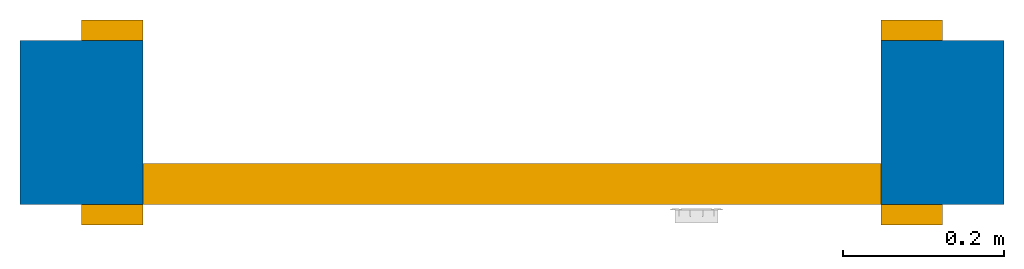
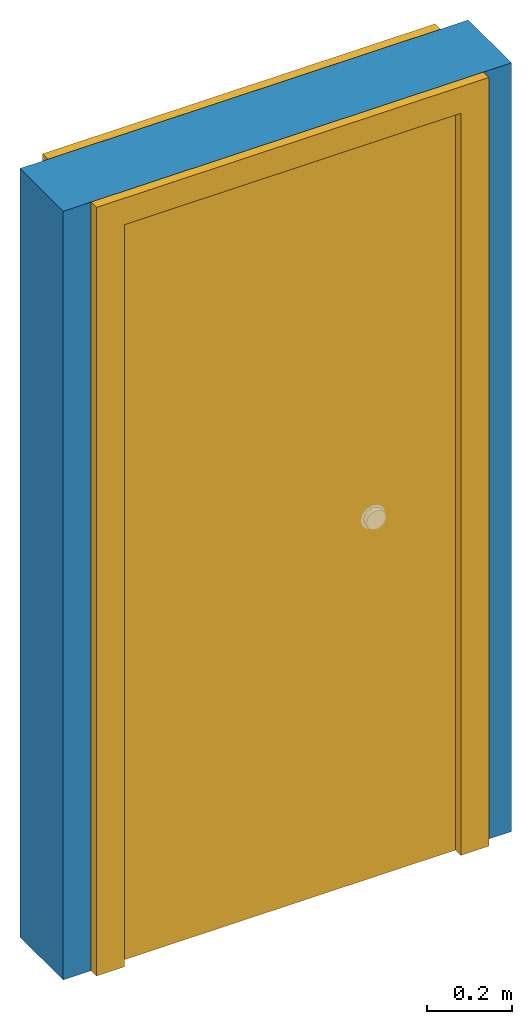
# One storey, part 1 of 2: 1 door, 1 wall, 1 opening.
"""IFC2X3 building model written with IfcOpenShell, lengths in feet."""

import ifcopenshell
import ifcopenshell.guid

model = None  # the IFC model being written
_history = None  # IfcOwnerHistory: only IFC2X3 demands one
_inside = {}  # id of a spatial element -> (the spatial element, [elements in it])
_under = {}  # id of a project, library or spatial element -> (it, [spatial elements below it])
_declared = {}  # id of a project -> (the project, [libraries it declares])
_typed = {}  # id of a type object -> (the type object, [elements of that type])
_made_of = {}  # id of a material, layer set ... -> (it, [elements and type objects made of it])


def new_model(schema):
    """Start an empty IFC model of exactly this schema.

    Asked for "IFC4X3", IfcOpenShell would pick the latest addendum, in which some entities
    have other attributes; the version numbers below select the first issue.
    IFC2X3 requires an IfcOwnerHistory on every rooted entity: one is made here for all.
    """
    global model, _history
    if schema == "IFC4X3":
        model = ifcopenshell.file(schema_version=(4, 3, 0, 0))
    else:
        model = ifcopenshell.file(schema=schema)
    _inside.clear()
    _under.clear()
    _declared.clear()
    _typed.clear()
    _made_of.clear()
    _history = None
    if model.schema == "IFC2X3":
        org = make("IfcOrganization", Name="unknown")
        user = make(
            "IfcPersonAndOrganization",
            ThePerson=make("IfcPerson", FamilyName="unknown"),
            TheOrganization=org,
        )
        app = make(
            "IfcApplication",
            ApplicationDeveloper=org,
            Version="unknown",
            ApplicationFullName="unknown",
            ApplicationIdentifier="unknown",
        )
        _history = make(
            "IfcOwnerHistory",
            OwningUser=user,
            OwningApplication=app,
            ChangeAction="ADDED",
            CreationDate=0,
        )
    return model


def make(cls, **values):
    """One entity of the class cls with the attributes given. An attribute that is None is left unset."""
    return model.create_entity(
        cls, **{name: value for name, value in values.items() if value is not None}
    )


def entity(cls, *values):
    """Any entity or typed value of the class cls, its attributes in the order of the schema. None: left unset."""
    e = model.create_entity(cls)
    for i, value in enumerate(values):
        if value is not None:
            e[i] = value
    return e


def rooted(cls, **values):
    """An entity with a GlobalId (a new one), such as an element, a storey or a relation."""
    return make(cls, GlobalId=ifcopenshell.guid.new(), OwnerHistory=_history, **values)


def si_unit(unit_type, name, prefix=None):
    """IfcSIUnit, for example si_unit("LENGTHUNIT", "METRE", prefix="MILLI")."""
    return make("IfcSIUnit", UnitType=unit_type, Prefix=prefix, Name=name)


def converted_unit(unit_type, name, factor, base, dimensions=None, offset=None):
    """IfcConversionBasedUnit, such as the inch: factor (a typed value) times the base unit."""
    return make(
        "IfcConversionBasedUnit"
        if offset is None
        else "IfcConversionBasedUnitWithOffset",
        ConversionOffset=offset,
        Dimensions=None
        if dimensions is None
        else entity("IfcDimensionalExponents", *dimensions),
        UnitType=unit_type,
        Name=name,
        ConversionFactor=make(
            "IfcMeasureWithUnit", ValueComponent=factor, UnitComponent=base
        ),
    )


def derived_unit(unit_type, elements):
    """IfcDerivedUnit: a product of units, each with its exponent."""
    return make(
        "IfcDerivedUnit",
        Elements=[
            make("IfcDerivedUnitElement", Unit=unit, Exponent=power)
            for unit, power in elements
        ],
        UnitType=unit_type,
    )


def assignment(units):
    """IfcUnitAssignment: the units of a project."""
    return None if units is None else make("IfcUnitAssignment", Units=units)


def point(xyz):
    """IfcCartesianPoint."""
    return None if xyz is None else make("IfcCartesianPoint", Coordinates=xyz)


def direction(xyz):
    """IfcDirection."""
    return None if xyz is None else make("IfcDirection", DirectionRatios=xyz)


def frame(location, z_axis=None, x_axis=None):
    """IfcAxis2Placement3D, a coordinate frame: its origin and axes. An axis left out is left unset."""
    return make(
        "IfcAxis2Placement3D",
        Location=point(location),
        Axis=direction(z_axis),
        RefDirection=direction(x_axis),
    )


def frame_2d(location, x_axis=None):
    """IfcAxis2Placement2D, a coordinate frame in the plane: its origin and x axis."""
    return make(
        "IfcAxis2Placement2D", Location=point(location), RefDirection=direction(x_axis)
    )


def origin():
    """The frame at (0, 0, 0) with its axes left unset."""
    return frame((0.0, 0.0, 0.0))


def place(relative_to, where):
    """IfcLocalPlacement: puts the frame where relative to a parent placement (None: the world)."""
    return make(
        "IfcLocalPlacement", PlacementRelTo=relative_to, RelativePlacement=where
    )


def context(
    kind, dimensions, precision=None, world=None, true_north=None, identifier=None
):
    """IfcGeometricRepresentationContext, for example the 3D "Model" context."""
    return make(
        "IfcGeometricRepresentationContext",
        ContextIdentifier=identifier,
        ContextType=kind,
        CoordinateSpaceDimension=dimensions,
        Precision=precision,
        WorldCoordinateSystem=world,
        TrueNorth=true_north,
    )


def subcontext(parent, identifier, kind, view, scale=None):
    """IfcGeometricRepresentationSubContext, for example "Body" below "Model"."""
    return make(
        "IfcGeometricRepresentationSubContext",
        ContextIdentifier=identifier,
        ContextType=kind,
        ParentContext=parent,
        TargetScale=scale,
        TargetView=view,
    )


def project(units=None, contexts=None):
    """IfcProject with its units and contexts."""
    return rooted(
        "IfcProject",
        Name="project",
        RepresentationContexts=contexts,
        UnitsInContext=assignment(units),
    )


def spatial(cls, under=None, at=None, **own):
    """A site, building, storey or space (cls), placed at a placement, below another one or the project."""
    s = rooted(cls, ObjectPlacement=at, **own)
    if under is not None:
        _under.setdefault(under.id(), (under, []))[1].append(s)
    return s


def polyline(points):
    """IfcPolyline through the points."""
    return make("IfcPolyline", Points=[point(p) for p in points])


def profile(cls, at=None, kind="AREA", **sizes):
    """A parametric profile (cls). Its sizes go by their IFC names, for example OverallWidth=200.0."""
    return make(cls, ProfileType=kind, Position=at, **sizes)


def rectangle(**sizes):
    """IfcRectangleProfileDef."""
    return profile("IfcRectangleProfileDef", **sizes)


def outline(outer, holes=None, kind="AREA"):
    """IfcArbitraryClosedProfileDef: a profile drawn as a closed curve; with holes, ...WithVoids."""
    if holes is None:
        return make("IfcArbitraryClosedProfileDef", ProfileType=kind, OuterCurve=outer)
    return make(
        "IfcArbitraryProfileDefWithVoids",
        ProfileType=kind,
        OuterCurve=outer,
        InnerCurves=holes,
    )


def extrude(swept, where, along, depth):
    """IfcExtrudedAreaSolid: the profile swept, set in the frame where, extruded along a direction by depth."""
    return make(
        "IfcExtrudedAreaSolid",
        SweptArea=swept,
        Position=where,
        ExtrudedDirection=direction(along),
        Depth=depth,
    )


def shape(context_of_items, identifier, shape_type, items):
    """IfcShapeRepresentation: the items that make up one representation, for example the "Body"."""
    return make(
        "IfcShapeRepresentation",
        ContextOfItems=context_of_items,
        RepresentationIdentifier=identifier,
        RepresentationType=shape_type,
        Items=items,
    )


def source(mapping_origin, context_of_items, identifier, shape_type, items):
    """IfcRepresentationMap: a shape defined once, which mapped items show again and again."""
    return make(
        "IfcRepresentationMap",
        MappingOrigin=mapping_origin,
        MappedRepresentation=shape(context_of_items, identifier, shape_type, items),
    )


def transform(
    local_origin,
    x_axis=None,
    y_axis=None,
    z_axis=None,
    scale=None,
    scale2=None,
    scale3=None,
    uniform=True,
):
    """IfcCartesianTransformationOperator3D, or its non-uniform kind. x_axis, y_axis, z_axis: its Axis1, 2, 3."""
    if uniform:
        return make(
            "IfcCartesianTransformationOperator3D",
            Axis1=direction(x_axis),
            Axis2=direction(y_axis),
            LocalOrigin=point(local_origin),
            Scale=scale,
            Axis3=direction(z_axis),
        )
    return make(
        "IfcCartesianTransformationOperator3DnonUniform",
        Axis1=direction(x_axis),
        Axis2=direction(y_axis),
        LocalOrigin=point(local_origin),
        Scale=scale,
        Axis3=direction(z_axis),
        Scale2=scale2,
        Scale3=scale3,
    )


def mapped(mapping_source, mapping_target):
    """IfcMappedItem: shows the shape of a source again, moved by a transform."""
    return make(
        "IfcMappedItem", MappingSource=mapping_source, MappingTarget=mapping_target
    )


def material(Name=None, Category=None):
    """IfcMaterial."""
    return make("IfcMaterial", Name=Name, Category=Category)


def material_list(materials):
    """IfcMaterialList."""
    return make("IfcMaterialList", Materials=materials)


def layer(
    of_material, thickness, ventilated=None, Name=None, Category=None, Priority=None
):
    """IfcMaterialLayer: one layer of a wall or slab, of a material (None: an air gap)."""
    return make(
        "IfcMaterialLayer",
        Material=of_material,
        LayerThickness=thickness,
        IsVentilated=ventilated,
        Name=Name,
        Category=Category,
        Priority=Priority,
    )


def layer_set(layers, Name=None):
    """IfcMaterialLayerSet."""
    return make("IfcMaterialLayerSet", MaterialLayers=layers, LayerSetName=Name)


def layer_usage(for_layer_set, set_direction, sense, offset, extent=None):
    """IfcMaterialLayerSetUsage: how a layer set lies in its element."""
    return make(
        "IfcMaterialLayerSetUsage",
        ForLayerSet=for_layer_set,
        LayerSetDirection=set_direction,
        DirectionSense=sense,
        OffsetFromReferenceLine=offset,
        ReferenceExtent=extent,
    )


def made_of(thing, what):
    """Note that an element or type object is made of a material, layer set ...; save() writes the relation."""
    if what is not None:
        _made_of.setdefault(what.id(), (what, []))[1].append(thing)
    return thing


def type_object(cls, material=None, **own):
    """A type object (cls), such as IfcWallType, which elements share."""
    return made_of(rooted(cls, **own), material)


def type_shapes(of_type, sources):
    """Give a type object the sources (RepresentationMaps) that its elements show as mapped items."""
    of_type.RepresentationMaps = sources


def element(
    cls,
    number,
    at=None,
    inside=None,
    cuts=None,
    type_object=None,
    material=None,
    context=None,
    identifier="Body",
    shape_type=None,
    held_by="IfcProductDefinitionShape",
    body=None,
    shapes=None,
    **own,
):
    """One element of the class cls, such as IfcWall. Its Tag is "e" and its number.

    at: its placement. inside: the storey or other place that contains it. cuts: it is an
    opening in that element (IfcRelVoidsElement). A single representation is given by context,
    identifier, shape_type and body (its items); several are given by shapes. held_by: the class
    of the entity that holds the representations. save() writes the other relations.
    """
    e = rooted(cls, Tag="e%d" % number, ObjectPlacement=at, **own)
    if body is not None:
        shapes = [shape(context, identifier, shape_type, body)]
    if shapes is not None:
        e.Representation = make(held_by, Representations=shapes)
    if inside is not None:
        _inside.setdefault(inside.id(), (inside, []))[1].append(e)
    if cuts is not None:
        rooted(
            "IfcRelVoidsElement", RelatingBuildingElement=cuts, RelatedOpeningElement=e
        )
    if type_object is not None:
        _typed.setdefault(type_object.id(), (type_object, []))[1].append(e)
    return made_of(e, material)


def fill(opening, filler):
    """IfcRelFillsElement: the door or window that sits in an opening."""
    return rooted(
        "IfcRelFillsElement",
        RelatingOpeningElement=opening,
        RelatedBuildingElement=filler,
    )


def aggregate(whole, parts):
    """IfcRelAggregates: a whole, such as a stair, and the parts it consists of."""
    return rooted("IfcRelAggregates", RelatingObject=whole, RelatedObjects=parts)


def save(model, path):
    """Write the relations noted so far, then the file.

    IfcRelAggregates (storeys below a building ...), IfcRelContainedInSpatialStructure (elements
    in a storey), IfcRelDefinesByType, IfcRelAssociatesMaterial and IfcRelDeclares: one each for
    every whole, place, type object, material and project.
    """
    for whole, parts in _under.values():
        aggregate(whole, parts)
    for where, things in _inside.values():
        rooted(
            "IfcRelContainedInSpatialStructure",
            RelatedElements=things,
            RelatingStructure=where,
        )
    for kind, things in _typed.values():
        rooted("IfcRelDefinesByType", RelatedObjects=things, RelatingType=kind)
    for what, things in _made_of.values():
        rooted("IfcRelAssociatesMaterial", RelatedObjects=things, RelatingMaterial=what)
    for by, libraries in _declared.values():
        rooted("IfcRelDeclares", RelatingContext=by, RelatedDefinitions=libraries)
    model.write(path)


model = new_model("IFC2X3")

# Units and contexts
model_context = context("Model", 3, precision=0.0001, world=origin(), true_north=direction((6.12303176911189e-17, 1.0)))
body_context = subcontext(model_context, "Body", "Model", "MODEL_VIEW")
ifc_project = project(units=[converted_unit("LENGTHUNIT", "FOOT", entity("IfcRatioMeasure", 0.3048), si_unit("LENGTHUNIT", "METRE"), dimensions=[1, 0, 0, 0, 0, 0, 0]), converted_unit("AREAUNIT", "SQUARE FOOT", entity("IfcRatioMeasure", 0.09290304), si_unit("AREAUNIT", "SQUARE_METRE"), dimensions=[2, 0, 0, 0, 0, 0, 0]), converted_unit("VOLUMEUNIT", "CUBIC FOOT", entity("IfcRatioMeasure", 0.028316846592), si_unit("VOLUMEUNIT", "CUBIC_METRE"), dimensions=[3, 0, 0, 0, 0, 0, 0]), converted_unit("PLANEANGLEUNIT", "DEGREE", entity("IfcRatioMeasure", 0.0174532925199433), si_unit("PLANEANGLEUNIT", "RADIAN"), dimensions=[0, 0, 0, 0, 0, 0, 0]), si_unit("MASSUNIT", "GRAM", prefix="KILO"), derived_unit("MASSDENSITYUNIT", [(si_unit("MASSUNIT", "GRAM", prefix="KILO"), 1), (si_unit("LENGTHUNIT", "METRE"), -3)]), si_unit("TIMEUNIT", "SECOND"), si_unit("FREQUENCYUNIT", "HERTZ"), si_unit("THERMODYNAMICTEMPERATUREUNIT", "DEGREE_CELSIUS"), derived_unit("THERMALTRANSMITTANCEUNIT", [(si_unit("MASSUNIT", "GRAM", prefix="KILO"), 1), (si_unit("THERMODYNAMICTEMPERATUREUNIT", "KELVIN"), -1), (si_unit("TIMEUNIT", "SECOND"), -3)]), derived_unit("VOLUMETRICFLOWRATEUNIT", [(si_unit("LENGTHUNIT", "METRE"), 3), (si_unit("TIMEUNIT", "SECOND"), -1)]), si_unit("ELECTRICCURRENTUNIT", "AMPERE"), si_unit("ELECTRICVOLTAGEUNIT", "VOLT"), si_unit("POWERUNIT", "WATT"), si_unit("FORCEUNIT", "NEWTON"), si_unit("ILLUMINANCEUNIT", "LUX"), si_unit("LUMINOUSFLUXUNIT", "LUMEN"), si_unit("LUMINOUSINTENSITYUNIT", "CANDELA"), derived_unit("USERDEFINED", [(si_unit("MASSUNIT", "GRAM", prefix="KILO"), -1), (si_unit("LENGTHUNIT", "METRE"), -2), (si_unit("TIMEUNIT", "SECOND"), 3), (si_unit("LUMINOUSFLUXUNIT", "LUMEN"), 1)]), derived_unit("LINEARVELOCITYUNIT", [(si_unit("LENGTHUNIT", "METRE"), 1), (si_unit("TIMEUNIT", "SECOND"), -1)]), si_unit("PRESSUREUNIT", "PASCAL"), derived_unit("USERDEFINED", [(si_unit("LENGTHUNIT", "METRE"), -2), (si_unit("MASSUNIT", "GRAM", prefix="KILO"), 1), (si_unit("TIMEUNIT", "SECOND"), -2)])], contexts=[model_context])

# Site, building, storey
site_placement = place(None, origin())
site = spatial("IfcSite", under=ifc_project, at=site_placement, Name="Default", CompositionType="ELEMENT")
building_placement = place(site_placement, origin())
building = spatial("IfcBuilding", under=site, at=building_placement, CompositionType="ELEMENT")
storey_placement = place(building_placement, origin())
storey = spatial("IfcBuildingStorey", under=building, at=storey_placement, Name="Level 1", CompositionType="ELEMENT", Elevation=0.0)

# Wall, opening, door
ifc_material_1 = material(Name="Default Wall")
ifc_layer = layer(ifc_material_1, 0.666666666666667)
ifc_layer_set = layer_set([ifc_layer], Name="Basic Wall:Generic - 8\"")
ifc_layer_usage = layer_usage(ifc_layer_set, "AXIS2", "NEGATIVE", 0.333333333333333)
wall_type = type_object("IfcWallType", Name="Basic Wall:Generic - 8\"", PredefinedType="STANDARD", material=ifc_layer_set)
wall_placement = place(storey_placement, frame((-5.84996403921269, 5.72141947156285, 0.0)))
wall = element("IfcWallStandardCase", 1, at=wall_placement, inside=storey, type_object=wall_type, material=ifc_layer_usage, Name="Basic Wall:Generic - 8\"", ObjectType="Basic Wall:Generic - 8\"", context=body_context, shape_type="SweptSolid", body=[
    extrude(rectangle(XDim=4.0, YDim=0.666666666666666, at=frame_2d((2.0, 2.4980018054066e-16), x_axis=(-1.0, 0.0))), origin(), (0.0, 0.0, 1.0), 7.25),
])
opening_placement = place(wall_placement, frame((3.5, 0.333333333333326, 0.0)))
opening = element("IfcOpeningElement", 2, at=opening_placement, cuts=wall, Name="Single-Flush:36\" x 84\":1", ObjectType="Opening", context=body_context, shape_type="SweptSolid", body=[
    extrude(rectangle(XDim=3.0, YDim=7.0, at=frame_2d((3.5, 1.5), x_axis=(0.0, 1.0))), frame((0.0, 0.0, 0.0), z_axis=(0.0, -1.0, 0.0), x_axis=(0.0, 0.0, 1.0)), (0.0, 0.0, 1.0), 0.666666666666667),
])
ifc_material_2 = material(Name="Door - Frame")
ifc_material_3 = material(Name="Door - Panel")
ifc_material_list_1 = material_list([ifc_material_2, ifc_material_3])
ifc_material_list_2 = material_list([ifc_material_2, ifc_material_3])
door_style = type_object("IfcDoorStyle", Name="36\" x 84\"", ConstructionType="NOTDEFINED", OperationType="SINGLE_SWING_RIGHT", ParameterTakesPrecedence=False, Sizeable=False, material=ifc_material_list_2)
shared_shape = source(origin(), body_context, "Body", "SweptSolid", [
    extrude(outline(polyline([(-1.75, -3.6875), (1.75, -3.6875), (1.75, 3.5625), (1.5, 3.5625), (1.5, -3.43750000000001), (-1.5, -3.43750000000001), (-1.5, 3.5625), (-1.75, 3.5625), (-1.75, -3.6875)])), frame((1.5, 0.666666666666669, 3.5625), z_axis=(0.0, 1.0, 0.0), x_axis=(1.0, 0.0, 0.0)), (0.0, 0.0, 1.0), 0.0833333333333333),
    extrude(outline(polyline([(-3.6875, -1.74999999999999), (3.5625, -1.74999999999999), (3.5625, -1.50000000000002), (-3.4375, -1.50000000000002), (-3.4375, 1.50000000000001), (3.5625, 1.50000000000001), (3.5625, 1.75000000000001), (-3.6875, 1.75000000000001), (-3.6875, -1.74999999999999)])), frame((1.50000000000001, -0.0833333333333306, 3.5625), z_axis=(0.0, 1.0, 0.0), x_axis=(0.0, 0.0, -1.0)), (0.0, 0.0, 1.0), 0.0833333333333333),
    extrude(rectangle(XDim=0.166666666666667, YDim=3.0, at=frame_2d((-1.38777878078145e-17, 0.0), x_axis=(1.0, 0.0))), frame((1.5, 0.583333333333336, 0.0), z_axis=(0.0, 0.0, 1.0), x_axis=(0.0, 1.0, 0.0)), (0.0, 0.0, 1.0), 7.0),
])
type_shapes(door_style, [shared_shape])
door_placement = place(opening_placement, frame((0.0, 0.0, 0.0), z_axis=(0.0, 0.0, 1.0), x_axis=(-1.0, 0.0, 0.0)))
door = element("IfcDoor", 3, at=door_placement, inside=storey, type_object=door_style, material=ifc_material_list_1, Name="Single-Flush:36\" x 84\"", ObjectType="Single-Flush:36\" x 84\"", OverallHeight=7.0, OverallWidth=3.0, context=body_context, shape_type="MappedRepresentation", body=[
    mapped(shared_shape, transform((0.0, 0.0, 0.0), scale=1.0)),
])
fill(opening, door)

save(model, "model.ifc")
